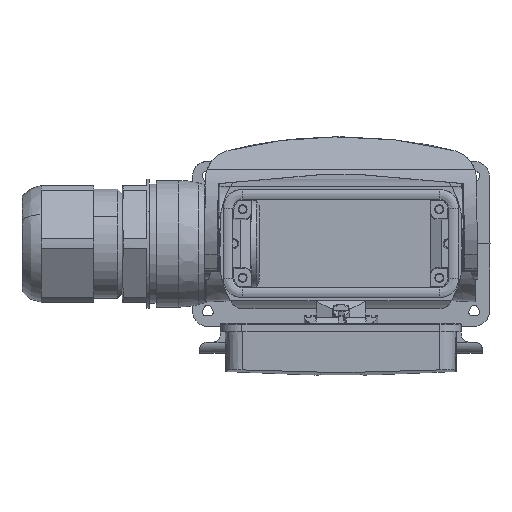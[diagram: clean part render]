
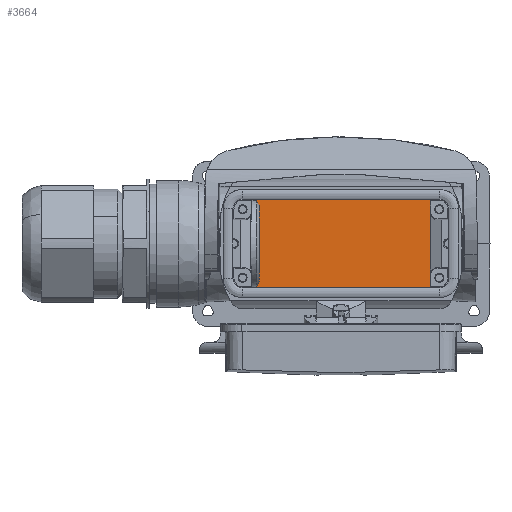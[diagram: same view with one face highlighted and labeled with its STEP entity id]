
A CAD part, top view. The second image highlights one B-rep face of the part: STEP entity #3664.
In plain terms, the highlighted planar face has unit normal (0, 0, 1).
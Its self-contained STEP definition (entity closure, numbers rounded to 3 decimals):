
#2280=FACE_OUTER_BOUND('',#5377,.T.);
#3664=ADVANCED_FACE('',(#2280),#4256,.F.);
#4256=PLANE('',#19737);
#5377=EDGE_LOOP('',(#10325,#10326,#10327,#10328));
#10325=ORIENTED_EDGE('',*,*,#14802,.F.);
#10326=ORIENTED_EDGE('',*,*,#14773,.T.);
#10327=ORIENTED_EDGE('',*,*,#14803,.F.);
#10328=ORIENTED_EDGE('',*,*,#14804,.T.);
#12354=VERTEX_POINT('',#32441);
#12355=VERTEX_POINT('',#32443);
#12371=VERTEX_POINT('',#32517);
#12372=VERTEX_POINT('',#32519);
#14773=EDGE_CURVE('',#12355,#12354,#16407,.T.);
#14802=EDGE_CURVE('',#12355,#12371,#16423,.T.);
#14803=EDGE_CURVE('',#12372,#12354,#16424,.T.);
#14804=EDGE_CURVE('',#12372,#12371,#16425,.T.);
#16407=LINE('',#32442,#18020);
#16423=LINE('',#32516,#18036);
#16424=LINE('',#32518,#18037);
#16425=LINE('',#32520,#18038);
#18020=VECTOR('',#24247,1.);
#18036=VECTOR('',#24299,1.);
#18037=VECTOR('',#24300,1.);
#18038=VECTOR('',#24301,1.);
#19737=AXIS2_PLACEMENT_3D('',#32521,#24302,#24303);
#24247=DIRECTION('',(-1.,0.,0.));
#24299=DIRECTION('',(0.,-1.,0.));
#24300=DIRECTION('',(0.,1.,0.));
#24301=DIRECTION('',(1.,0.,0.));
#24302=DIRECTION('',(0.,0.,-1.));
#24303=DIRECTION('',(-1.,0.,0.));
#32441=CARTESIAN_POINT('',(-35.238,17.425,-70.2));
#32442=CARTESIAN_POINT('',(0.,17.425,-70.2));
#32443=CARTESIAN_POINT('',(35.238,17.425,-70.2));
#32516=CARTESIAN_POINT('',(35.238,0.,-70.2));
#32517=CARTESIAN_POINT('',(35.238,-17.425,-70.2));
#32518=CARTESIAN_POINT('',(-35.238,-13.649,-70.2));
#32519=CARTESIAN_POINT('',(-35.238,-17.425,-70.2));
#32520=CARTESIAN_POINT('',(0.,-17.425,-70.2));
#32521=CARTESIAN_POINT('',(0.,0.,-70.2));
